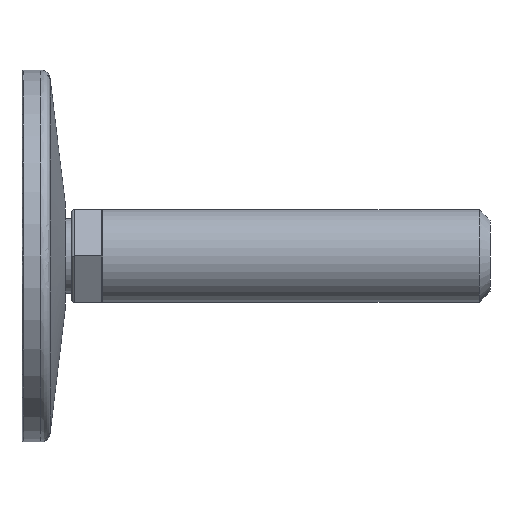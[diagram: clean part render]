
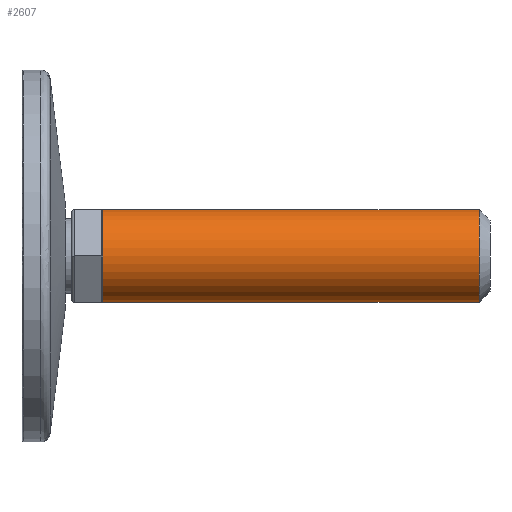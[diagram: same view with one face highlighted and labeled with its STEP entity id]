
A CAD part, front view. The second image highlights one B-rep face of the part: STEP entity #2607.
In plain terms, the highlighted cylindrical face has radius 15 mm (diameter 30 mm), a full revolution.
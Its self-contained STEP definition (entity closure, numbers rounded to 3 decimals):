
#2526=CARTESIAN_POINT('',(-495.635,-473.109,0.));
#2527=VERTEX_POINT('',#2526);
#2528=CARTESIAN_POINT('',(-495.635,-503.109,0.));
#2529=VERTEX_POINT('',#2528);
#2530=CARTESIAN_POINT('',(-495.635,-488.109,0.));
#2531=DIRECTION('',(1.0,0.0,0.0));
#2532=DIRECTION('',(0.0,-1.0,0.0));
#2533=AXIS2_PLACEMENT_3D('',#2530,#2531,#2532);
#2534=CIRCLE('',#2533,15.0);
#2535=EDGE_CURVE('',#2527,#2529,#2534,.T.);
#2537=CARTESIAN_POINT('',(-495.635,-488.109,0.));
#2538=DIRECTION('',(1.0,0.0,0.0));
#2539=DIRECTION('',(0.0,-1.0,0.0));
#2540=AXIS2_PLACEMENT_3D('',#2537,#2538,#2539);
#2541=CIRCLE('',#2540,15.0);
#2542=EDGE_CURVE('',#2529,#2527,#2541,.T.);
#2573=CARTESIAN_POINT('',(-495.635,-488.109,0.));
#2574=DIRECTION('',(1.0,0.0,0.0));
#2575=DIRECTION('',(0.0,-1.0,0.0));
#2576=AXIS2_PLACEMENT_3D('',#2573,#2574,#2575);
#2577=CYLINDRICAL_SURFACE('',#2576,15.0);
#2578=ORIENTED_EDGE('',*,*,#2542,.T.);
#2579=ORIENTED_EDGE('',*,*,#2535,.T.);
#2580=CARTESIAN_POINT('',(-374.135,-503.109,0.));
#2581=VERTEX_POINT('',#2580);
#2582=CARTESIAN_POINT('',(-495.635,-503.109,0.));
#2583=DIRECTION('',(1.0,0.0,0.0));
#2584=VECTOR('',#2583,121.5);
#2585=LINE('',#2582,#2584);
#2586=EDGE_CURVE('',#2529,#2581,#2585,.T.);
#2587=ORIENTED_EDGE('',*,*,#2586,.T.);
#2588=CARTESIAN_POINT('',(-374.135,-473.109,0.));
#2589=VERTEX_POINT('',#2588);
#2590=CARTESIAN_POINT('',(-374.135,-488.109,0.));
#2591=DIRECTION('',(1.0,0.0,0.0));
#2592=DIRECTION('',(0.0,-1.0,0.0));
#2593=AXIS2_PLACEMENT_3D('',#2590,#2591,#2592);
#2594=CIRCLE('',#2593,15.0);
#2595=EDGE_CURVE('',#2589,#2581,#2594,.T.);
#2596=ORIENTED_EDGE('',*,*,#2595,.F.);
#2597=CARTESIAN_POINT('',(-374.135,-488.109,0.));
#2598=DIRECTION('',(1.0,0.0,0.0));
#2599=DIRECTION('',(0.0,-1.0,0.0));
#2600=AXIS2_PLACEMENT_3D('',#2597,#2598,#2599);
#2601=CIRCLE('',#2600,15.0);
#2602=EDGE_CURVE('',#2581,#2589,#2601,.T.);
#2603=ORIENTED_EDGE('',*,*,#2602,.F.);
#2604=ORIENTED_EDGE('',*,*,#2586,.F.);
#2605=EDGE_LOOP('',(#2578,#2579,#2587,#2596,#2603,#2604));
#2606=FACE_OUTER_BOUND('',#2605,.T.);
#2607=ADVANCED_FACE('',(#2606),#2577,.T.);
